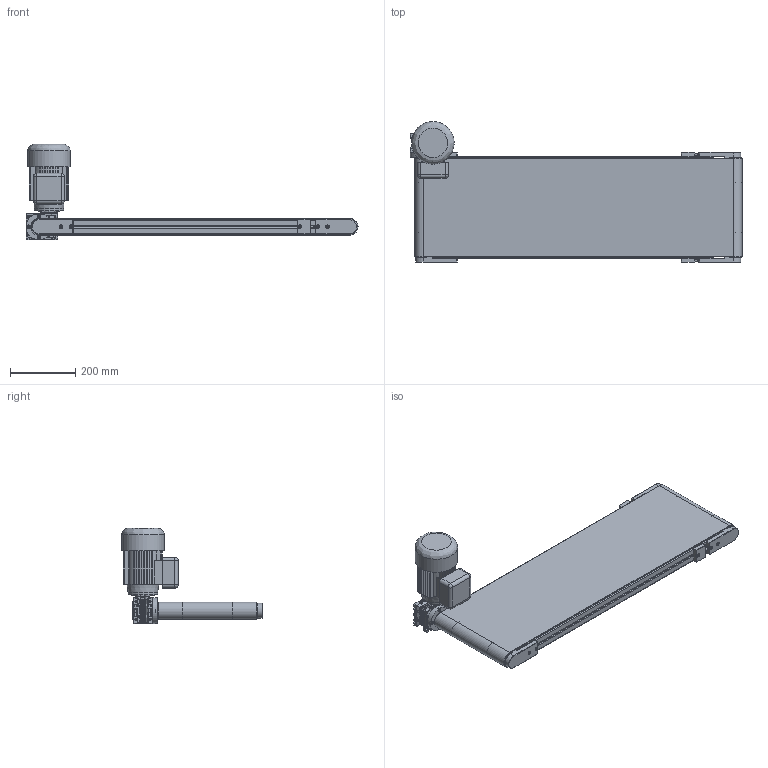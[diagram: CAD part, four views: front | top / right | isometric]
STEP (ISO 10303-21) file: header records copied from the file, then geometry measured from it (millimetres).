
FILE_DESCRIPTION (( 'STEP AP214' ), '1' );
FILE_NAME ('TB52 300X1000 DIRECT A GAUCHE.STEP', '2022-10-10T13:06:10', ( '' ), ( '' ), 'SwSTEP 2.0', 'SolidWorks 2022', '' );
FILE_SCHEMA (( 'AUTOMOTIVE_DESIGN' ));
Length unit declared in the file: millimetre
Products named in the file (20): 983-001; 983-002; 982-001B_982-001B-300; 982-012-180W; 982-002; 983-000; TH_910-229; CHC THE_910-064H; 982-003; 982-008; CHASSIS TB52_Défaut<Brut d''usinage>; 982-011; CHC THE_910-065H; 982-016; CLAVETTE_910-165; TB52 300X1000 DIRECT A GAUCHE; 910-010; 982-000; TH_910-167; 980-000
Assembly tree (36 placements, depth 3):
  TB52 300X1000 DIRECT A GAUCHE
    CHASSIS TB52_Défaut<Brut d''usinage>
    982-011
    TH_910-229  x4
    983-000
      982-016
      980-000
      982-002
      CHC THE_910-065H  x2
      910-010  x2
      CLAVETTE_910-165
      CHC THE_910-064H  x3
    983-001  x3
      982-000
      982-003
      CHC THE_910-065H
      910-010
    983-002  x2
      982-008
      TH_910-167
      CHC THE_910-065H
      910-010
    982-001B_982-001B-300  x2
    982-012-180W
Bounding box: 1014 x 430 x 292 mm (x, y, z)
Volume: 8844665.5 mm3; surface area: 3248303.5 mm2
Topology: 53 solids, 58 shells, 2010 faces, 5036 edges, 3265 vertices
Faces by surface type: plane 1317, cylinder 326, cone 297, torus 65, bspline 5
Full cylindrical faces by diameter (mm): 3.242 x1, 4.2 x8, 5 x16, 5.98 x13, 6 x15, 6.5 x13, 7 x4, 7.3 x6, 8 x2, 10 x13, 11 x14, 14 x1, 15 x7, 16 x1, 20 x4, 21 x6, 24 x4, 25 x2, 26 x2, 29 x6, 30 x2, 31 x3, 35 x8, 36 x2, 37 x1, 42 x2, 45 x1, 49 x2, 55 x2, 56 x1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
Entity records: 44117 total; most frequent: CARTESIAN_POINT 9056, ORIENTED_EDGE 6910, DIRECTION 6491, EDGE_CURVE 3455, VECTOR 2465, LINE 2465, VERTEX_POINT 2345, AXIS2_PLACEMENT_3D 2013
